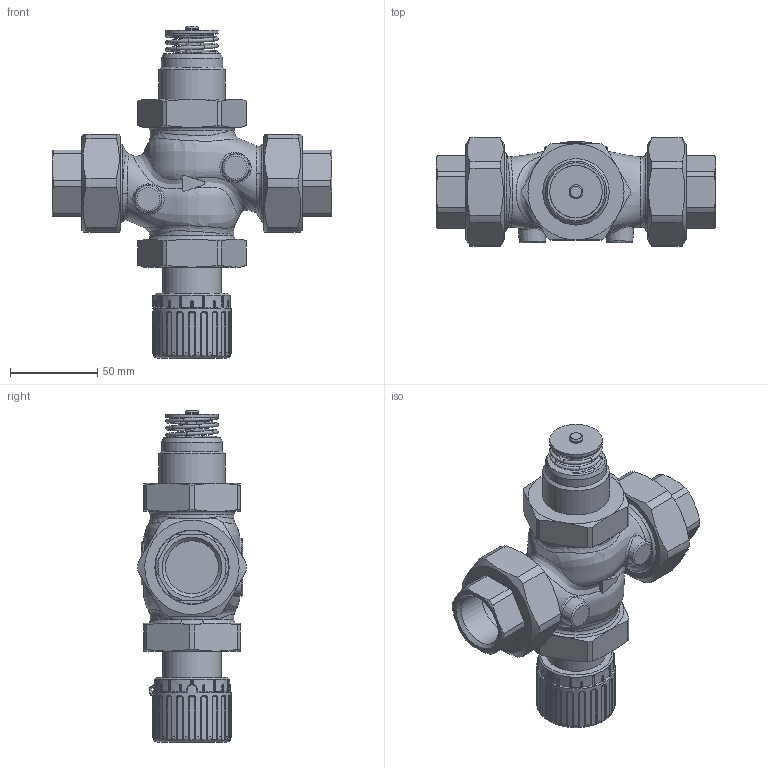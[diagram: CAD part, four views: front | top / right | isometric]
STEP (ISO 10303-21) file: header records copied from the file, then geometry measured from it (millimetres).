
FILE_DESCRIPTION(/* description */ (''),/* implementation_level */ '2;1');
FILE_NAME(/* name */ 'rv122p_dn25_T.stp',/* time_stamp */ '2012-05-24T07:19:23+02:00',/* author */ ('KLIMES'),/* organization */ ('LDM'),/* preprocessor_version */ 'ST-DEVELOPER v11',/* originating_system */ 'SIEMENS PLM Software NX 7.0',/* authorisation */ '');
FILE_SCHEMA (('CONFIG_CONTROL_DESIGN'));
Length unit declared in the file: millimetre
Products named in the file (1): klim6733ig4p
Bounding box: 160 x 61.98 x 190 mm (x, y, z)
Volume: 79758.4 mm3; surface area: 84641.8 mm2
Topology: 6 solids, 7 shells, 634 faces, 1571 edges, 971 vertices
Faces by surface type: cylinder 215, plane 181, bspline 107, torus 71, cone 60
Full cylindrical faces by diameter (mm): 2 x1, 8 x2, 24.5 x1, 30 x1, 30.291 x2, 33 x4, 33.8 x1, 35 x1, 37 x1, 38 x1, 42 x2, 42.5 x2, 43 x1, 44 x2, 44.5 x2, 44.845 x2, 47.8 x2
Entity records: 30128 total; most frequent: CARTESIAN_POINT 16469, ORIENTED_EDGE 2912, DIRECTION 2620, EDGE_CURVE 1456, AXIS2_PLACEMENT_3D 1094, VERTEX_POINT 932, EDGE_LOOP 746, ADVANCED_FACE 634
